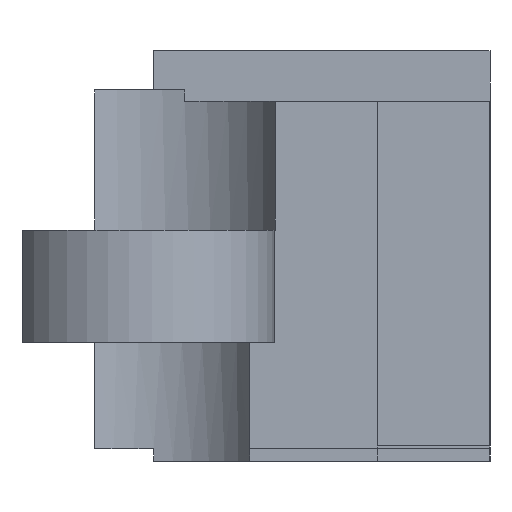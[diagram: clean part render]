
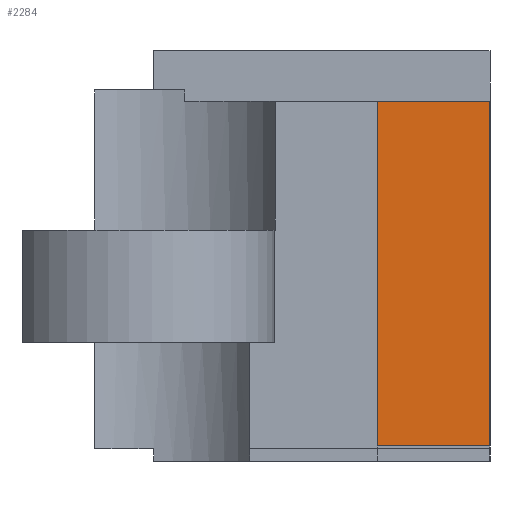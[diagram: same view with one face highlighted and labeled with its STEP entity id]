
A CAD part, left-side view. The second image highlights one B-rep face of the part: STEP entity #2284.
In plain terms, the highlighted planar face has unit normal (-1, 0, 0).
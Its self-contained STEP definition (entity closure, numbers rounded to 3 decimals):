
#101=FACE_OUTER_BOUND('',#229,.T.);
#229=EDGE_LOOP('',(#1804,#1805,#1806,#1807));
#488=LINE('',#3536,#747);
#538=LINE('',#3653,#797);
#539=LINE('',#3656,#798);
#540=LINE('',#3657,#799);
#747=VECTOR('',#2849,1.);
#797=VECTOR('',#2945,1.);
#798=VECTOR('',#2948,1.);
#799=VECTOR('',#2949,1.);
#983=VERTEX_POINT('',#3533);
#984=VERTEX_POINT('',#3535);
#1028=VERTEX_POINT('',#3649);
#1029=VERTEX_POINT('',#3655);
#1246=EDGE_CURVE('',#983,#984,#488,.T.);
#1305=EDGE_CURVE('',#1028,#983,#538,.T.);
#1306=EDGE_CURVE('',#1028,#1029,#539,.T.);
#1307=EDGE_CURVE('',#1029,#984,#540,.T.);
#1804=ORIENTED_EDGE('',*,*,#1306,.T.);
#1805=ORIENTED_EDGE('',*,*,#1307,.T.);
#1806=ORIENTED_EDGE('',*,*,#1246,.F.);
#1807=ORIENTED_EDGE('',*,*,#1305,.F.);
#2170=PLANE('',#2463);
#2284=ADVANCED_FACE('',(#101),#2170,.F.);
#2463=AXIS2_PLACEMENT_3D('',#3654,#2946,#2947);
#2849=DIRECTION('',(0.,0.,1.));
#2945=DIRECTION('',(0.,1.,0.));
#2946=DIRECTION('center_axis',(1.,0.,0.));
#2947=DIRECTION('ref_axis',(0.,0.,1.));
#2948=DIRECTION('',(0.,0.,1.));
#2949=DIRECTION('',(0.,1.,0.));
#3533=CARTESIAN_POINT('',(16.8,-10.3,-10.35));
#3535=CARTESIAN_POINT('',(16.8,-10.3,-4.2));
#3536=CARTESIAN_POINT('',(16.8,-10.3,-10.4));
#3649=CARTESIAN_POINT('',(16.8,-12.3,-10.35));
#3653=CARTESIAN_POINT('',(16.8,-12.3,-10.35));
#3654=CARTESIAN_POINT('Origin',(16.8,-12.3,-10.4));
#3655=CARTESIAN_POINT('',(16.8,-12.3,-4.2));
#3656=CARTESIAN_POINT('',(16.8,-12.3,-10.4));
#3657=CARTESIAN_POINT('',(16.8,-12.3,-4.2));
